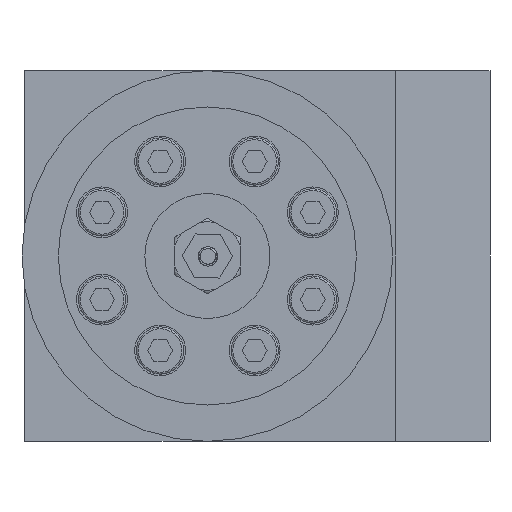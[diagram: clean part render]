
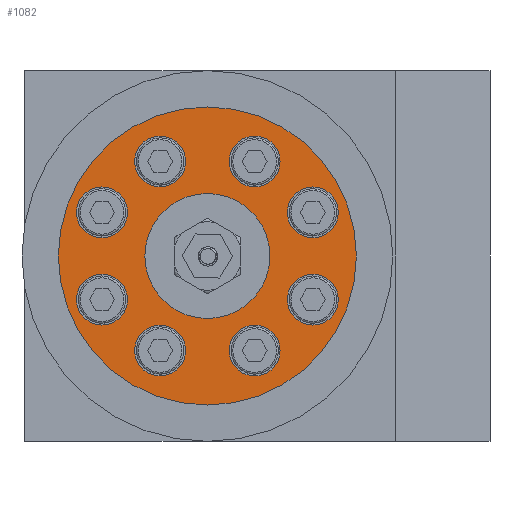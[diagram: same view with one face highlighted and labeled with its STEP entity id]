
A CAD part, left-side view. The second image highlights one B-rep face of the part: STEP entity #1082.
In plain terms, the highlighted planar face has unit normal (-1, 0, 0).
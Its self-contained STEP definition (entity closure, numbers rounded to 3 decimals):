
#1082=ADVANCED_FACE('',(#3095,#3096,#3097,#3098,#3099,#3100,#3101,#3102,
#3103,#3104),#1502,.F.);
#1502=PLANE('',#8707);
#3095=FACE_BOUND('',#3684,.T.);
#3096=FACE_BOUND('',#3685,.T.);
#3097=FACE_BOUND('',#3686,.T.);
#3098=FACE_BOUND('',#3687,.T.);
#3099=FACE_BOUND('',#3688,.T.);
#3100=FACE_BOUND('',#3689,.T.);
#3101=FACE_BOUND('',#3690,.T.);
#3102=FACE_BOUND('',#3691,.T.);
#3103=FACE_BOUND('',#3692,.T.);
#3104=FACE_BOUND('',#3693,.T.);
#3684=EDGE_LOOP('',(#4962));
#3685=EDGE_LOOP('',(#4963));
#3686=EDGE_LOOP('',(#4964));
#3687=EDGE_LOOP('',(#4965));
#3688=EDGE_LOOP('',(#4966));
#3689=EDGE_LOOP('',(#4967));
#3690=EDGE_LOOP('',(#4968));
#3691=EDGE_LOOP('',(#4969));
#3692=EDGE_LOOP('',(#4970));
#3693=EDGE_LOOP('',(#4971));
#4962=ORIENTED_EDGE('',*,*,#7351,.T.);
#4963=ORIENTED_EDGE('',*,*,#7352,.T.);
#4964=ORIENTED_EDGE('',*,*,#7353,.T.);
#4965=ORIENTED_EDGE('',*,*,#7354,.T.);
#4966=ORIENTED_EDGE('',*,*,#7355,.T.);
#4967=ORIENTED_EDGE('',*,*,#7356,.T.);
#4968=ORIENTED_EDGE('',*,*,#7357,.T.);
#4969=ORIENTED_EDGE('',*,*,#7358,.T.);
#4970=ORIENTED_EDGE('',*,*,#7359,.T.);
#4971=ORIENTED_EDGE('',*,*,#7349,.F.);
#6495=VERTEX_POINT('',#12430);
#6497=VERTEX_POINT('',#12435);
#6498=VERTEX_POINT('',#12437);
#6499=VERTEX_POINT('',#12439);
#6500=VERTEX_POINT('',#12441);
#6501=VERTEX_POINT('',#12443);
#6502=VERTEX_POINT('',#12445);
#6503=VERTEX_POINT('',#12447);
#6504=VERTEX_POINT('',#12449);
#6505=VERTEX_POINT('',#12451);
#7349=EDGE_CURVE('',#6495,#6495,#8145,.T.);
#7351=EDGE_CURVE('',#6497,#6497,#8147,.T.);
#7352=EDGE_CURVE('',#6498,#6498,#8148,.T.);
#7353=EDGE_CURVE('',#6499,#6499,#8149,.T.);
#7354=EDGE_CURVE('',#6500,#6500,#8150,.T.);
#7355=EDGE_CURVE('',#6501,#6501,#8151,.T.);
#7356=EDGE_CURVE('',#6502,#6502,#8152,.T.);
#7357=EDGE_CURVE('',#6503,#6503,#8153,.T.);
#7358=EDGE_CURVE('',#6504,#6504,#8154,.T.);
#7359=EDGE_CURVE('',#6505,#6505,#8155,.T.);
#8145=CIRCLE('',#8695,41.);
#8147=CIRCLE('',#8698,17.197);
#8148=CIRCLE('',#8699,7.);
#8149=CIRCLE('',#8700,7.);
#8150=CIRCLE('',#8701,7.);
#8151=CIRCLE('',#8702,7.);
#8152=CIRCLE('',#8703,7.);
#8153=CIRCLE('',#8704,7.);
#8154=CIRCLE('',#8705,7.);
#8155=CIRCLE('',#8706,7.);
#8695=AXIS2_PLACEMENT_3D('',#12429,#10164,#10165);
#8698=AXIS2_PLACEMENT_3D('',#12434,#10170,#10171);
#8699=AXIS2_PLACEMENT_3D('',#12436,#10172,#10173);
#8700=AXIS2_PLACEMENT_3D('',#12438,#10174,#10175);
#8701=AXIS2_PLACEMENT_3D('',#12440,#10176,#10177);
#8702=AXIS2_PLACEMENT_3D('',#12442,#10178,#10179);
#8703=AXIS2_PLACEMENT_3D('',#12444,#10180,#10181);
#8704=AXIS2_PLACEMENT_3D('',#12446,#10182,#10183);
#8705=AXIS2_PLACEMENT_3D('',#12448,#10184,#10185);
#8706=AXIS2_PLACEMENT_3D('',#12450,#10186,#10187);
#8707=AXIS2_PLACEMENT_3D('',#12452,#10188,#10189);
#10164=DIRECTION('',(1.,0.,0.));
#10165=DIRECTION('',(0.,1.,0.));
#10170=DIRECTION('',(1.,0.,0.));
#10171=DIRECTION('',(0.,1.,0.));
#10172=DIRECTION('',(1.,0.,0.));
#10173=DIRECTION('',(0.,-1.,0.));
#10174=DIRECTION('',(1.,0.,0.));
#10175=DIRECTION('',(0.,-1.,0.));
#10176=DIRECTION('',(1.,0.,0.));
#10177=DIRECTION('',(0.,-1.,0.));
#10178=DIRECTION('',(1.,0.,0.));
#10179=DIRECTION('',(0.,-1.,0.));
#10180=DIRECTION('',(1.,0.,0.));
#10181=DIRECTION('',(0.,-1.,0.));
#10182=DIRECTION('',(1.,0.,0.));
#10183=DIRECTION('',(0.,-1.,0.));
#10184=DIRECTION('',(1.,0.,0.));
#10185=DIRECTION('',(0.,-1.,0.));
#10186=DIRECTION('',(1.,0.,0.));
#10187=DIRECTION('',(0.,-1.,0.));
#10188=DIRECTION('',(1.,0.,0.));
#10189=DIRECTION('',(0.,0.,-1.));
#12429=CARTESIAN_POINT('',(-165.,13.745,51.));
#12430=CARTESIAN_POINT('',(-165.,54.745,51.));
#12434=CARTESIAN_POINT('',(-165.,13.745,51.));
#12435=CARTESIAN_POINT('',(-165.,30.943,51.));
#12436=CARTESIAN_POINT('',(-165.,42.745,39.));
#12437=CARTESIAN_POINT('',(-165.,35.745,39.));
#12438=CARTESIAN_POINT('',(-165.,-15.255,39.));
#12439=CARTESIAN_POINT('',(-165.,-22.255,39.));
#12440=CARTESIAN_POINT('',(-165.,-15.255,63.));
#12441=CARTESIAN_POINT('',(-165.,-22.255,63.));
#12442=CARTESIAN_POINT('',(-165.,42.745,63.));
#12443=CARTESIAN_POINT('',(-165.,35.745,63.));
#12444=CARTESIAN_POINT('',(-165.,26.745,25.));
#12445=CARTESIAN_POINT('',(-165.,19.745,25.));
#12446=CARTESIAN_POINT('',(-165.,0.745,25.));
#12447=CARTESIAN_POINT('',(-165.,-6.255,25.));
#12448=CARTESIAN_POINT('',(-165.,0.745,77.));
#12449=CARTESIAN_POINT('',(-165.,-6.255,77.));
#12450=CARTESIAN_POINT('',(-165.,26.745,77.));
#12451=CARTESIAN_POINT('',(-165.,19.745,77.));
#12452=CARTESIAN_POINT('',(-165.,13.745,51.));
